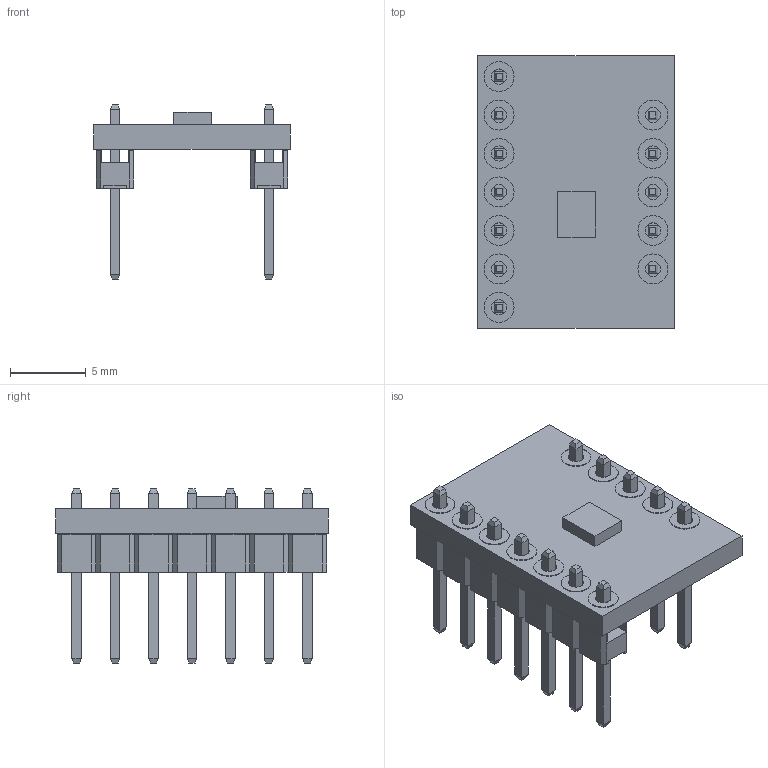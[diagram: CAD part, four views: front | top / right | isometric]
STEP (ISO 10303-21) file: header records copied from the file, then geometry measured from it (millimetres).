
FILE_DESCRIPTION(/* description */ (''),/* implementation_level */ '2;1');
FILE_NAME(/* name */ 'GY-BMI160.step',/* time_stamp */ '2026-10-08T18:32:19+07:00',/* author */ (''),/* organization */ (''),/* preprocessor_version */ 'ST-DEVELOPER v20.2',/* originating_system */ 'Autodesk Translation Framework v15.15.0.0',/* authorisation */ '');
FILE_SCHEMA (('AUTOMOTIVE_DESIGN { 1 0 10303 214 3 1 1 }'));
Length unit declared in the file: millimetre
Products named in the file (3): 2026-10-08-17-32-47-702; 2026-10-08-11-09-17-958; 2026-10-08-10-26-34-847
Assembly tree (2 placements, depth 2):
  2026-10-08-17-32-47-702
    2026-10-08-11-09-17-958
    2026-10-08-10-26-34-847
Bounding box: 13 x 18 x 11.5 mm (x, y, z)
Volume: 556.3 mm3; surface area: 1368.3 mm2
Topology: 15 solids, 15 shells, 481 faces, 1080 edges, 688 vertices
Faces by surface type: plane 421, cylinder 60
Full cylindrical faces by diameter (mm): 1 x24, 1.98 x36
Entity records: 13667 total; most frequent: CARTESIAN_POINT 2254, DIRECTION 2172, ORIENTED_EDGE 2160, EDGE_CURVE 1080, LINE 960, VECTOR 960, VERTEX_POINT 688, AXIS2_PLACEMENT_3D 606
